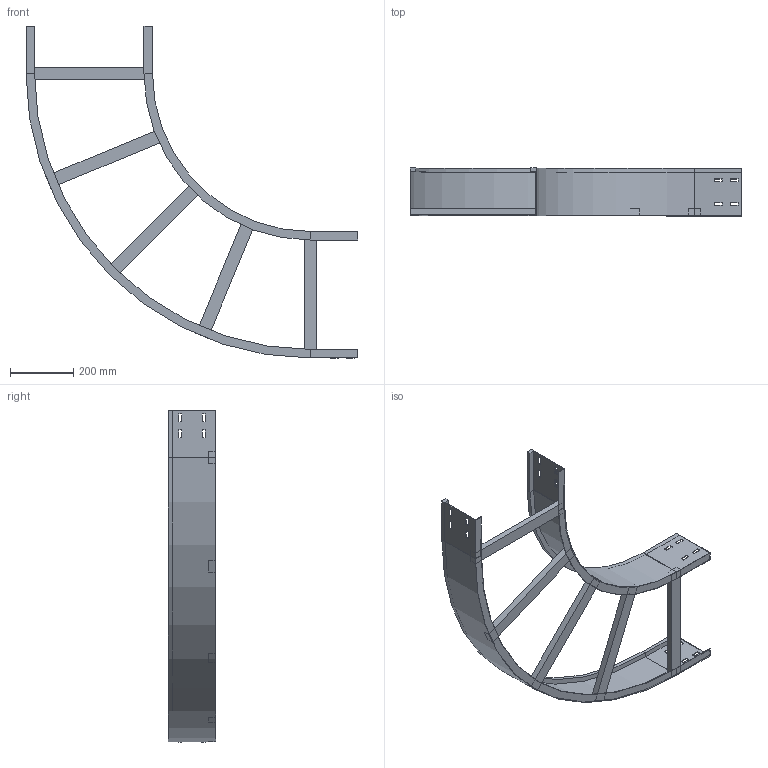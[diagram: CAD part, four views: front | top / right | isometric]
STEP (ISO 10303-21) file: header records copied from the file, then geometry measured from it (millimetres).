
FILE_DESCRIPTION (( 'STEP AP214' ), '1' );
FILE_NAME ('10J5F400.step', '2025-02-21T16:25:14', ( '' ), ( '' ), 'SwSTEP 2.0', 'SolidWorks 2023', '' );
FILE_SCHEMA (( 'AUTOMOTIVE_DESIGN' ));
Length unit declared in the file: millimetre
Products named in the file (4): LONGH.INTERNO 90°_H150_R500; TRAVERSINO_400; 10J5F400; LONGH.ESTERNO 90°_H150_R500+400
Assembly tree (7 placements, depth 2):
  10J5F400
    LONGH.INTERNO 90°_H150_R500
    LONGH.ESTERNO 90°_H150_R500+400
    TRAVERSINO_400  x5
Bounding box: 1050 x 150 x 1050 mm (x, y, z)
Volume: 3113720.3 mm3; surface area: 1325282.3 mm2
Topology: 7 solids, 7 shells, 146 faces, 364 edges, 232 vertices
Faces by surface type: plane 138, cylinder 8
Entity records: 3837 total; most frequent: CARTESIAN_POINT 648, ORIENTED_EDGE 632, DIRECTION 596, EDGE_CURVE 316, LINE 300, VECTOR 300, VERTEX_POINT 200, EDGE_LOOP 154
